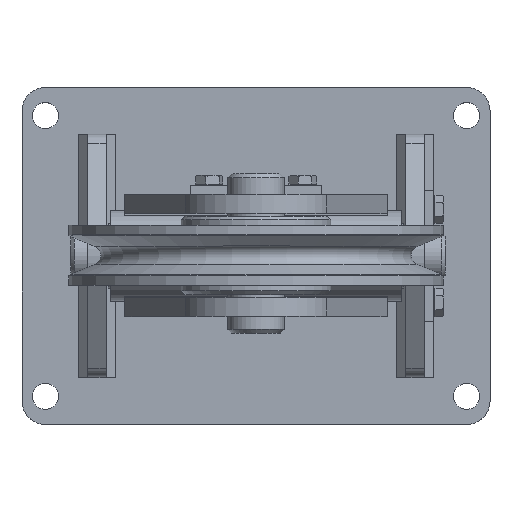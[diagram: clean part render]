
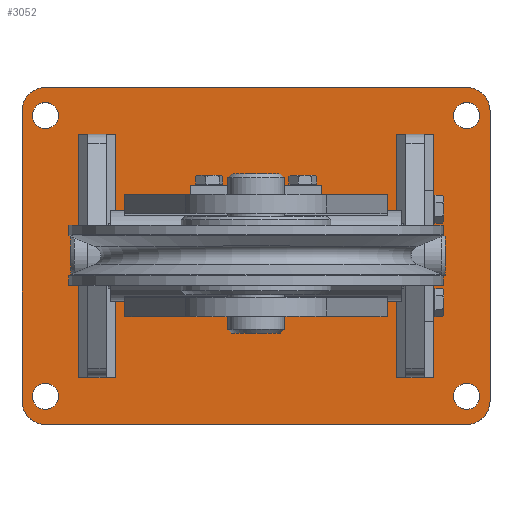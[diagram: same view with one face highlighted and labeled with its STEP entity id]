
A CAD part, top view. The second image highlights one B-rep face of the part: STEP entity #3052.
In plain terms, the highlighted planar face has unit normal (0, 0, 1).
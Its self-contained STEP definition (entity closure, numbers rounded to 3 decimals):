
#151=FACE_BOUND('',#690,.T.);
#152=FACE_BOUND('',#691,.T.);
#153=FACE_BOUND('',#692,.T.);
#154=FACE_BOUND('',#693,.T.);
#193=CIRCLE('',#3570,7.);
#194=CIRCLE('',#3571,7.);
#196=CIRCLE('',#3574,7.);
#197=CIRCLE('',#3575,7.);
#199=CIRCLE('',#3578,7.);
#200=CIRCLE('',#3579,7.);
#202=CIRCLE('',#3582,7.);
#203=CIRCLE('',#3583,7.);
#205=CIRCLE('',#3586,12.5);
#207=CIRCLE('',#3590,12.5);
#208=CIRCLE('',#3591,12.5);
#209=CIRCLE('',#3592,12.5);
#505=FACE_OUTER_BOUND('',#689,.T.);
#689=EDGE_LOOP('',(#2171,#2172,#2173,#2174,#2175,#2176,#2177,#2178));
#690=EDGE_LOOP('',(#2179,#2180));
#691=EDGE_LOOP('',(#2181,#2182));
#692=EDGE_LOOP('',(#2183,#2184));
#693=EDGE_LOOP('',(#2185,#2186));
#931=LINE('',#5102,#1167);
#934=LINE('',#5108,#1170);
#935=LINE('',#5112,#1171);
#936=LINE('',#5116,#1172);
#1167=VECTOR('',#4073,10.);
#1170=VECTOR('',#4078,10.);
#1171=VECTOR('',#4081,10.);
#1172=VECTOR('',#4084,10.);
#1385=VERTEX_POINT('',#5060);
#1386=VERTEX_POINT('',#5061);
#1388=VERTEX_POINT('',#5068);
#1389=VERTEX_POINT('',#5069);
#1391=VERTEX_POINT('',#5076);
#1392=VERTEX_POINT('',#5077);
#1394=VERTEX_POINT('',#5084);
#1395=VERTEX_POINT('',#5085);
#1397=VERTEX_POINT('',#5092);
#1398=VERTEX_POINT('',#5093);
#1401=VERTEX_POINT('',#5101);
#1403=VERTEX_POINT('',#5107);
#1404=VERTEX_POINT('',#5109);
#1405=VERTEX_POINT('',#5111);
#1406=VERTEX_POINT('',#5113);
#1407=VERTEX_POINT('',#5115);
#1684=EDGE_CURVE('',#1385,#1386,#193,.T.);
#1685=EDGE_CURVE('',#1386,#1385,#194,.T.);
#1688=EDGE_CURVE('',#1388,#1389,#196,.T.);
#1689=EDGE_CURVE('',#1389,#1388,#197,.T.);
#1692=EDGE_CURVE('',#1391,#1392,#199,.T.);
#1693=EDGE_CURVE('',#1392,#1391,#200,.T.);
#1696=EDGE_CURVE('',#1394,#1395,#202,.T.);
#1697=EDGE_CURVE('',#1395,#1394,#203,.T.);
#1700=EDGE_CURVE('',#1397,#1398,#205,.T.);
#1704=EDGE_CURVE('',#1401,#1398,#931,.T.);
#1707=EDGE_CURVE('',#1397,#1403,#934,.T.);
#1708=EDGE_CURVE('',#1404,#1403,#207,.T.);
#1709=EDGE_CURVE('',#1404,#1405,#935,.T.);
#1710=EDGE_CURVE('',#1406,#1405,#208,.T.);
#1711=EDGE_CURVE('',#1406,#1407,#936,.T.);
#1712=EDGE_CURVE('',#1401,#1407,#209,.T.);
#2171=ORIENTED_EDGE('',*,*,#1700,.F.);
#2172=ORIENTED_EDGE('',*,*,#1707,.T.);
#2173=ORIENTED_EDGE('',*,*,#1708,.F.);
#2174=ORIENTED_EDGE('',*,*,#1709,.T.);
#2175=ORIENTED_EDGE('',*,*,#1710,.F.);
#2176=ORIENTED_EDGE('',*,*,#1711,.T.);
#2177=ORIENTED_EDGE('',*,*,#1712,.F.);
#2178=ORIENTED_EDGE('',*,*,#1704,.T.);
#2179=ORIENTED_EDGE('',*,*,#1684,.T.);
#2180=ORIENTED_EDGE('',*,*,#1685,.T.);
#2181=ORIENTED_EDGE('',*,*,#1688,.T.);
#2182=ORIENTED_EDGE('',*,*,#1689,.T.);
#2183=ORIENTED_EDGE('',*,*,#1692,.T.);
#2184=ORIENTED_EDGE('',*,*,#1693,.T.);
#2185=ORIENTED_EDGE('',*,*,#1696,.T.);
#2186=ORIENTED_EDGE('',*,*,#1697,.T.);
#2938=PLANE('',#3589);
#3052=ADVANCED_FACE('',(#505,#151,#152,#153,#154),#2938,.T.);
#3570=AXIS2_PLACEMENT_3D('',#5062,#4029,#4030);
#3571=AXIS2_PLACEMENT_3D('',#5063,#4031,#4032);
#3574=AXIS2_PLACEMENT_3D('',#5070,#4038,#4039);
#3575=AXIS2_PLACEMENT_3D('',#5071,#4040,#4041);
#3578=AXIS2_PLACEMENT_3D('',#5078,#4047,#4048);
#3579=AXIS2_PLACEMENT_3D('',#5079,#4049,#4050);
#3582=AXIS2_PLACEMENT_3D('',#5086,#4056,#4057);
#3583=AXIS2_PLACEMENT_3D('',#5087,#4058,#4059);
#3586=AXIS2_PLACEMENT_3D('',#5094,#4065,#4066);
#3589=AXIS2_PLACEMENT_3D('',#5106,#4076,#4077);
#3590=AXIS2_PLACEMENT_3D('',#5110,#4079,#4080);
#3591=AXIS2_PLACEMENT_3D('',#5114,#4082,#4083);
#3592=AXIS2_PLACEMENT_3D('',#5117,#4085,#4086);
#4029=DIRECTION('center_axis',(0.,0.,-1.));
#4030=DIRECTION('ref_axis',(1.,0.,0.));
#4031=DIRECTION('center_axis',(0.,0.,-1.));
#4032=DIRECTION('ref_axis',(1.,0.,0.));
#4038=DIRECTION('center_axis',(0.,0.,-1.));
#4039=DIRECTION('ref_axis',(1.,0.,0.));
#4040=DIRECTION('center_axis',(0.,0.,-1.));
#4041=DIRECTION('ref_axis',(1.,0.,0.));
#4047=DIRECTION('center_axis',(0.,0.,-1.));
#4048=DIRECTION('ref_axis',(1.,0.,0.));
#4049=DIRECTION('center_axis',(0.,0.,-1.));
#4050=DIRECTION('ref_axis',(1.,0.,0.));
#4056=DIRECTION('center_axis',(0.,0.,-1.));
#4057=DIRECTION('ref_axis',(1.,0.,0.));
#4058=DIRECTION('center_axis',(0.,0.,-1.));
#4059=DIRECTION('ref_axis',(1.,0.,0.));
#4065=DIRECTION('center_axis',(0.,0.,-1.));
#4066=DIRECTION('ref_axis',(0.707,-0.707,0.));
#4073=DIRECTION('',(1.,0.,0.));
#4076=DIRECTION('center_axis',(0.,0.,1.));
#4077=DIRECTION('ref_axis',(1.,0.,0.));
#4078=DIRECTION('',(0.,1.,0.));
#4079=DIRECTION('center_axis',(0.,0.,-1.));
#4080=DIRECTION('ref_axis',(0.707,0.707,0.));
#4081=DIRECTION('',(-1.,0.,0.));
#4082=DIRECTION('center_axis',(0.,0.,-1.));
#4083=DIRECTION('ref_axis',(-0.707,0.707,0.));
#4084=DIRECTION('',(0.,-1.,0.));
#4085=DIRECTION('center_axis',(0.,0.,-1.));
#4086=DIRECTION('ref_axis',(-0.707,-0.707,0.));
#5060=CARTESIAN_POINT('',(119.5,-75.,12.));
#5061=CARTESIAN_POINT('',(105.5,-75.,12.));
#5062=CARTESIAN_POINT('Origin',(112.5,-75.,12.));
#5063=CARTESIAN_POINT('Origin',(112.5,-75.,12.));
#5068=CARTESIAN_POINT('',(-105.5,75.,12.));
#5069=CARTESIAN_POINT('',(-119.5,75.,12.));
#5070=CARTESIAN_POINT('Origin',(-112.5,75.,12.));
#5071=CARTESIAN_POINT('Origin',(-112.5,75.,12.));
#5076=CARTESIAN_POINT('',(119.5,75.,12.));
#5077=CARTESIAN_POINT('',(105.5,75.,12.));
#5078=CARTESIAN_POINT('Origin',(112.5,75.,12.));
#5079=CARTESIAN_POINT('Origin',(112.5,75.,12.));
#5084=CARTESIAN_POINT('',(-105.5,-75.,12.));
#5085=CARTESIAN_POINT('',(-119.5,-75.,12.));
#5086=CARTESIAN_POINT('Origin',(-112.5,-75.,12.));
#5087=CARTESIAN_POINT('Origin',(-112.5,-75.,12.));
#5092=CARTESIAN_POINT('',(125.,-77.5,12.));
#5093=CARTESIAN_POINT('',(112.5,-90.,12.));
#5094=CARTESIAN_POINT('Origin',(112.5,-77.5,12.));
#5101=CARTESIAN_POINT('',(-112.5,-90.,12.));
#5102=CARTESIAN_POINT('',(125.,-90.,12.));
#5106=CARTESIAN_POINT('Origin',(0.,0.,12.));
#5107=CARTESIAN_POINT('',(125.,77.5,12.));
#5108=CARTESIAN_POINT('',(125.,90.,12.));
#5109=CARTESIAN_POINT('',(112.5,90.,12.));
#5110=CARTESIAN_POINT('Origin',(112.5,77.5,12.));
#5111=CARTESIAN_POINT('',(-112.5,90.,12.));
#5112=CARTESIAN_POINT('',(-125.,90.,12.));
#5113=CARTESIAN_POINT('',(-125.,77.5,12.));
#5114=CARTESIAN_POINT('Origin',(-112.5,77.5,12.));
#5115=CARTESIAN_POINT('',(-125.,-77.5,12.));
#5116=CARTESIAN_POINT('',(-125.,-90.,12.));
#5117=CARTESIAN_POINT('Origin',(-112.5,-77.5,12.));
